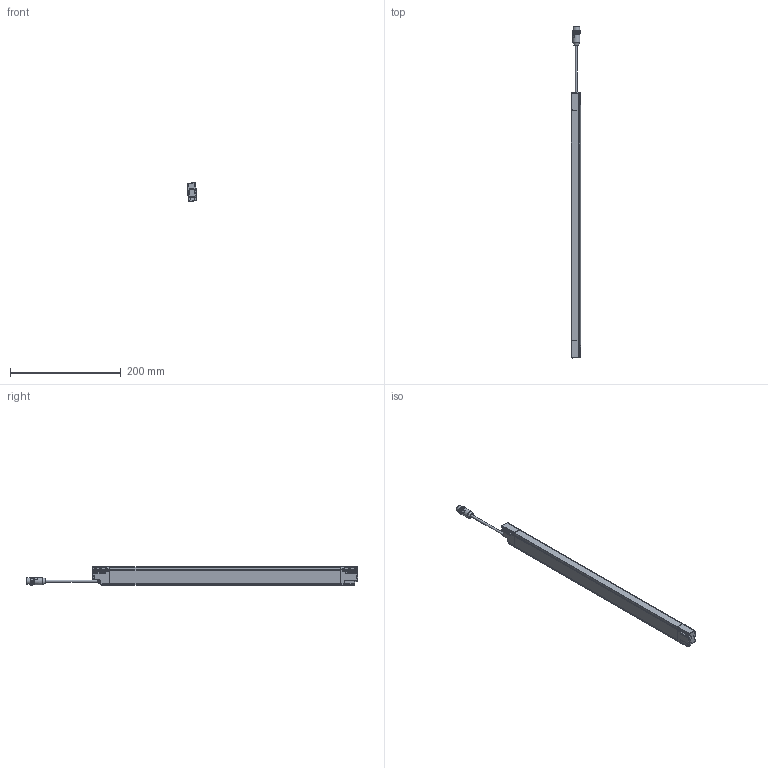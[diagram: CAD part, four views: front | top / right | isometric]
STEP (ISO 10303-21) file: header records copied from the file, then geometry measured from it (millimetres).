
FILE_DESCRIPTION(/* description */ (''),/* implementation_level */ '2;1');
FILE_NAME(/* name */ 'DSD-0631.stp',/* time_stamp */ '2015-02-23T17:10:26+01:00',/* author */ (''),/* organization */ (''),/* preprocessor_version */ 'ST-DEVELOPER v11',/* originating_system */ 'SIEMENS PLM Software NX 7.5',/* authorisation */ '');
FILE_SCHEMA (('AUTOMOTIVE_DESIGN { 1 0 10303 214 1 1 1 1 }'));
Length unit declared in the file: millimetre
Products named in the file (1): AP008110_00
Bounding box: 17.36 x 600.24 x 33.46 mm (x, y, z)
Surface area: 60082.6 mm2 (no closed solid volume)
Topology: 0 solids, 44 shells, 1105 faces, 3759 edges, 2575 vertices
Faces by surface type: cylinder 405, plane 326, bspline 145, torus 118, sphere 69, cone 42
Full cylindrical faces by diameter (mm): 1 x5, 1.2 x2, 2.6 x6, 4 x1, 8.3 x1, 9.4 x1, 10.4 x1, 12 x1, 13 x1, 13.5 x1, 14.5 x2
Entity records: 46891 total; most frequent: CARTESIAN_POINT 15153, DIRECTION 6812, ORIENTED_EDGE 5884, EDGE_CURVE 3635, AXIS2_PLACEMENT_3D 2574, VERTEX_POINT 2541, LINE 1664, VECTOR 1664
